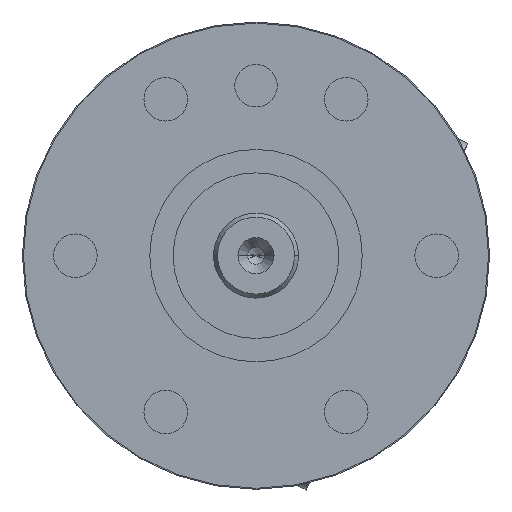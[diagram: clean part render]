
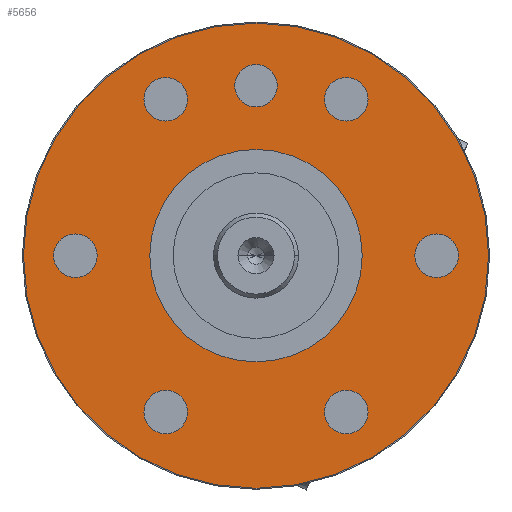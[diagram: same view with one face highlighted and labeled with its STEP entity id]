
A CAD part, left-side view. The second image highlights one B-rep face of the part: STEP entity #5656.
In plain terms, the highlighted planar face has unit normal (-1, 0, 0).
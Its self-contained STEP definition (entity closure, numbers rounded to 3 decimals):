
#1563=CARTESIAN_POINT('',(-6.,0.,0.));
#1564=DIRECTION('',(-1.,0.,0.));
#1565=DIRECTION('',(0.,1.,0.));
#1566=AXIS2_PLACEMENT_3D('',#1563,#1564,#1565);
#1571=CARTESIAN_POINT('',(-6.,0.,0.));
#1572=DIRECTION('',(1.,0.,0.));
#1573=DIRECTION('',(0.,1.,0.));
#1574=AXIS2_PLACEMENT_3D('',#1571,#1572,#1573);
#1579=CARTESIAN_POINT('',(-6.,-4.25,-7.361));
#1580=DIRECTION('',(-1.,0.,0.));
#1581=DIRECTION('',(0.,1.,0.));
#1582=AXIS2_PLACEMENT_3D('',#1579,#1580,#1581);
#1587=CARTESIAN_POINT('',(-6.,-4.25,-7.361));
#1588=DIRECTION('',(-1.,0.,0.));
#1589=DIRECTION('',(0.,-1.,0.));
#1590=AXIS2_PLACEMENT_3D('',#1587,#1588,#1589);
#1595=CARTESIAN_POINT('',(-6.,-8.5,0.));
#1596=DIRECTION('',(-1.,0.,0.));
#1597=DIRECTION('',(0.,0.5,0.866));
#1598=AXIS2_PLACEMENT_3D('',#1595,#1596,#1597);
#1603=CARTESIAN_POINT('',(-6.,-8.5,0.));
#1604=DIRECTION('',(-1.,0.,0.));
#1605=DIRECTION('',(0.,-0.5,-0.866));
#1606=AXIS2_PLACEMENT_3D('',#1603,#1604,#1605);
#1611=CARTESIAN_POINT('',(-6.,-4.25,7.361));
#1612=DIRECTION('',(-1.,0.,0.));
#1613=DIRECTION('',(0.,-0.5,0.866));
#1614=AXIS2_PLACEMENT_3D('',#1611,#1612,#1613);
#1619=CARTESIAN_POINT('',(-6.,-4.25,7.361));
#1620=DIRECTION('',(-1.,0.,0.));
#1621=DIRECTION('',(0.,0.5,-0.866));
#1622=AXIS2_PLACEMENT_3D('',#1619,#1620,#1621);
#1627=CARTESIAN_POINT('',(-6.,4.25,7.361));
#1628=DIRECTION('',(-1.,0.,0.));
#1629=DIRECTION('',(0.,-1.,0.));
#1630=AXIS2_PLACEMENT_3D('',#1627,#1628,#1629);
#1635=CARTESIAN_POINT('',(-6.,4.25,7.361));
#1636=DIRECTION('',(-1.,0.,0.));
#1637=DIRECTION('',(0.,1.,0.));
#1638=AXIS2_PLACEMENT_3D('',#1635,#1636,#1637);
#1643=CARTESIAN_POINT('',(-6.,8.5,0.));
#1644=DIRECTION('',(-1.,0.,0.));
#1645=DIRECTION('',(0.,-0.5,-0.866));
#1646=AXIS2_PLACEMENT_3D('',#1643,#1644,#1645);
#1651=CARTESIAN_POINT('',(-6.,8.5,0.));
#1652=DIRECTION('',(-1.,0.,0.));
#1653=DIRECTION('',(0.,0.5,0.866));
#1654=AXIS2_PLACEMENT_3D('',#1651,#1652,#1653);
#1659=CARTESIAN_POINT('',(-6.,4.25,-7.361));
#1660=DIRECTION('',(-1.,0.,0.));
#1661=DIRECTION('',(0.,0.5,-0.866));
#1662=AXIS2_PLACEMENT_3D('',#1659,#1660,#1661);
#1667=CARTESIAN_POINT('',(-6.,4.25,-7.361));
#1668=DIRECTION('',(-1.,0.,0.));
#1669=DIRECTION('',(0.,-0.5,0.866));
#1670=AXIS2_PLACEMENT_3D('',#1667,#1668,#1669);
#1675=CARTESIAN_POINT('',(-6.,0.,8.));
#1676=DIRECTION('',(1.,0.,0.));
#1677=DIRECTION('',(0.,1.,0.));
#1678=AXIS2_PLACEMENT_3D('',#1675,#1676,#1677);
#1683=CARTESIAN_POINT('',(-6.,0.,8.));
#1684=DIRECTION('',(1.,0.,0.));
#1685=DIRECTION('',(0.,-1.,0.));
#1686=AXIS2_PLACEMENT_3D('',#1683,#1684,#1685);
#1698=CARTESIAN_POINT('',(-6.,0.,0.));
#1699=DIRECTION('',(1.,0.,0.));
#1700=DIRECTION('',(0.,1.,0.));
#1701=AXIS2_PLACEMENT_3D('',#1698,#1699,#1700);
#1713=CARTESIAN_POINT('',(-6.,0.,0.));
#1714=DIRECTION('',(-1.,0.,0.));
#1715=DIRECTION('',(0.,1.,0.));
#1716=AXIS2_PLACEMENT_3D('',#1713,#1714,#1715);
#3768=CARTESIAN_POINT('',(-6.,5.,0.));
#3770=VERTEX_POINT('',#3768);
#3772=CARTESIAN_POINT('',(-6.,-5.,0.));
#3774=VERTEX_POINT('',#3772);
#3776=CARTESIAN_POINT('',(-6.,10.95,0.));
#3777=CARTESIAN_POINT('',(-6.,-10.95,0.));
#3778=VERTEX_POINT('',#3776);
#3779=VERTEX_POINT('',#3777);
#3788=CARTESIAN_POINT('',(-6.,-3.225,-7.361));
#3789=CARTESIAN_POINT('',(-6.,-5.275,-7.361));
#3790=VERTEX_POINT('',#3788);
#3791=VERTEX_POINT('',#3789);
#3792=CARTESIAN_POINT('',(-6.,-7.988,0.888));
#3793=CARTESIAN_POINT('',(-6.,-9.013,-0.888));
#3794=VERTEX_POINT('',#3792);
#3795=VERTEX_POINT('',#3793);
#3796=CARTESIAN_POINT('',(-6.,-4.763,8.249));
#3797=CARTESIAN_POINT('',(-6.,-3.738,6.474));
#3798=VERTEX_POINT('',#3796);
#3799=VERTEX_POINT('',#3797);
#3800=CARTESIAN_POINT('',(-6.,3.225,7.361));
#3801=CARTESIAN_POINT('',(-6.,5.275,7.361));
#3802=VERTEX_POINT('',#3800);
#3803=VERTEX_POINT('',#3801);
#3804=CARTESIAN_POINT('',(-6.,7.988,-0.888));
#3805=CARTESIAN_POINT('',(-6.,9.013,0.888));
#3806=VERTEX_POINT('',#3804);
#3807=VERTEX_POINT('',#3805);
#3808=CARTESIAN_POINT('',(-6.,4.763,-8.249));
#3809=CARTESIAN_POINT('',(-6.,3.738,-6.474));
#3810=VERTEX_POINT('',#3808);
#3811=VERTEX_POINT('',#3809);
#3812=CARTESIAN_POINT('',(-6.,1.,8.));
#3813=CARTESIAN_POINT('',(-6.,-1.,8.));
#3814=VERTEX_POINT('',#3812);
#3815=VERTEX_POINT('',#3813);
#5599=CARTESIAN_POINT('',(-6.,0.,0.));
#5600=DIRECTION('',(-1.,0.,0.));
#5601=DIRECTION('',(0.,1.,0.));
#5602=AXIS2_PLACEMENT_3D('',#5599,#5600,#5601);
#5603=PLANE('',#5602);
#5604=ORIENTED_EDGE('',*,*,#5564,.F.);
#5605=ORIENTED_EDGE('',*,*,#5585,.T.);
#5606=EDGE_LOOP('',(#5604,#5605));
#5607=FACE_OUTER_BOUND('',#5606,.F.);
#5609=ORIENTED_EDGE('',*,*,#5608,.F.);
#5611=ORIENTED_EDGE('',*,*,#5610,.T.);
#5612=EDGE_LOOP('',(#5609,#5611));
#5613=FACE_BOUND('',#5612,.F.);
#5615=ORIENTED_EDGE('',*,*,#5614,.T.);
#5617=ORIENTED_EDGE('',*,*,#5616,.T.);
#5618=EDGE_LOOP('',(#5615,#5617));
#5619=FACE_BOUND('',#5618,.F.);
#5621=ORIENTED_EDGE('',*,*,#5620,.T.);
#5623=ORIENTED_EDGE('',*,*,#5622,.T.);
#5624=EDGE_LOOP('',(#5621,#5623));
#5625=FACE_BOUND('',#5624,.F.);
#5627=ORIENTED_EDGE('',*,*,#5626,.T.);
#5629=ORIENTED_EDGE('',*,*,#5628,.T.);
#5630=EDGE_LOOP('',(#5627,#5629));
#5631=FACE_BOUND('',#5630,.F.);
#5633=ORIENTED_EDGE('',*,*,#5632,.T.);
#5635=ORIENTED_EDGE('',*,*,#5634,.T.);
#5636=EDGE_LOOP('',(#5633,#5635));
#5637=FACE_BOUND('',#5636,.F.);
#5639=ORIENTED_EDGE('',*,*,#5638,.T.);
#5641=ORIENTED_EDGE('',*,*,#5640,.T.);
#5642=EDGE_LOOP('',(#5639,#5641));
#5643=FACE_BOUND('',#5642,.F.);
#5645=ORIENTED_EDGE('',*,*,#5644,.T.);
#5647=ORIENTED_EDGE('',*,*,#5646,.T.);
#5648=EDGE_LOOP('',(#5645,#5647));
#5649=FACE_BOUND('',#5648,.F.);
#5651=ORIENTED_EDGE('',*,*,#5650,.F.);
#5653=ORIENTED_EDGE('',*,*,#5652,.F.);
#5654=EDGE_LOOP('',(#5651,#5653));
#5655=FACE_BOUND('',#5654,.F.);
#5656=ADVANCED_FACE('',(#5607,#5613,#5619,#5625,#5631,#5637,#5643,#5649,#5655),
#5603,.T.);
#1567=CIRCLE('',#1566,10.95);
#1575=CIRCLE('',#1574,10.95);
#1583=CIRCLE('',#1582,1.025);
#1591=CIRCLE('',#1590,1.025);
#1599=CIRCLE('',#1598,1.025);
#1607=CIRCLE('',#1606,1.025);
#1615=CIRCLE('',#1614,1.025);
#1623=CIRCLE('',#1622,1.025);
#1631=CIRCLE('',#1630,1.025);
#1639=CIRCLE('',#1638,1.025);
#1647=CIRCLE('',#1646,1.025);
#1655=CIRCLE('',#1654,1.025);
#1663=CIRCLE('',#1662,1.025);
#1671=CIRCLE('',#1670,1.025);
#1679=CIRCLE('',#1678,1.);
#1687=CIRCLE('',#1686,1.);
#1702=CIRCLE('',#1701,5.);
#1717=CIRCLE('',#1716,5.);
#5564=EDGE_CURVE('',#3778,#3779,#1567,.T.);
#5585=EDGE_CURVE('',#3778,#3779,#1575,.T.);
#5608=EDGE_CURVE('',#3770,#3774,#1702,.T.);
#5610=EDGE_CURVE('',#3770,#3774,#1717,.T.);
#5614=EDGE_CURVE('',#3790,#3791,#1583,.T.);
#5616=EDGE_CURVE('',#3791,#3790,#1591,.T.);
#5620=EDGE_CURVE('',#3794,#3795,#1599,.T.);
#5622=EDGE_CURVE('',#3795,#3794,#1607,.T.);
#5626=EDGE_CURVE('',#3798,#3799,#1615,.T.);
#5628=EDGE_CURVE('',#3799,#3798,#1623,.T.);
#5632=EDGE_CURVE('',#3802,#3803,#1631,.T.);
#5634=EDGE_CURVE('',#3803,#3802,#1639,.T.);
#5638=EDGE_CURVE('',#3806,#3807,#1647,.T.);
#5640=EDGE_CURVE('',#3807,#3806,#1655,.T.);
#5644=EDGE_CURVE('',#3810,#3811,#1663,.T.);
#5646=EDGE_CURVE('',#3811,#3810,#1671,.T.);
#5650=EDGE_CURVE('',#3814,#3815,#1679,.T.);
#5652=EDGE_CURVE('',#3815,#3814,#1687,.T.);
